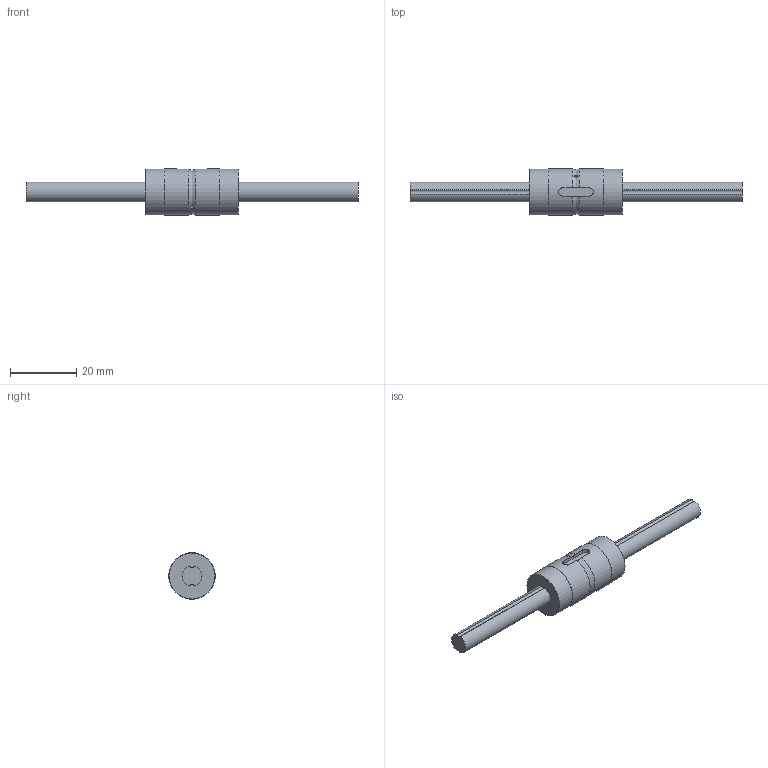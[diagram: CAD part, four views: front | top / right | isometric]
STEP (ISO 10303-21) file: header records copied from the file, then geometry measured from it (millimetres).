
FILE_DESCRIPTION((''),'2;1');
FILE_NAME('C:\Documents and Settings\土屋\My Documents\土屋移動用フォルダ\製品 (図面)\カタログ用3D\ボールスプライン\BSP\BSP6.stp','2015-02-23T13:25:36',('y'),(''),'Autodesk Inventor 11','Autodesk Inventor 11','');
FILE_SCHEMA(('AUTOMOTIVE_DESIGN { 1 0 10303 214 1 1 1 1 }'));
Length unit declared in the file: millimetre
Products named in the file (3): BSP6; BSP6軸; BSP6ナット
Assembly tree (2 placements, depth 2):
  BSP6
    BSP6軸
    BSP6ナット
Bounding box: 100 x 14 x 14 mm (x, y, z)
Volume: 6202.6 mm3; surface area: 4033.4 mm2
Topology: 2 solids, 2 shells, 28 faces, 62 edges, 42 vertices
Faces by surface type: cylinder 15, plane 10, bspline 3
Full cylindrical faces by diameter (mm): 1 x1, 13.8 x2, 14 x2
Entity records: 1061 total; most frequent: CARTESIAN_POINT 393, DIRECTION 134, ORIENTED_EDGE 108, AXIS2_PLACEMENT_3D 58, EDGE_CURVE 54, VERTEX_POINT 40, EDGE_LOOP 40, CIRCLE 28
